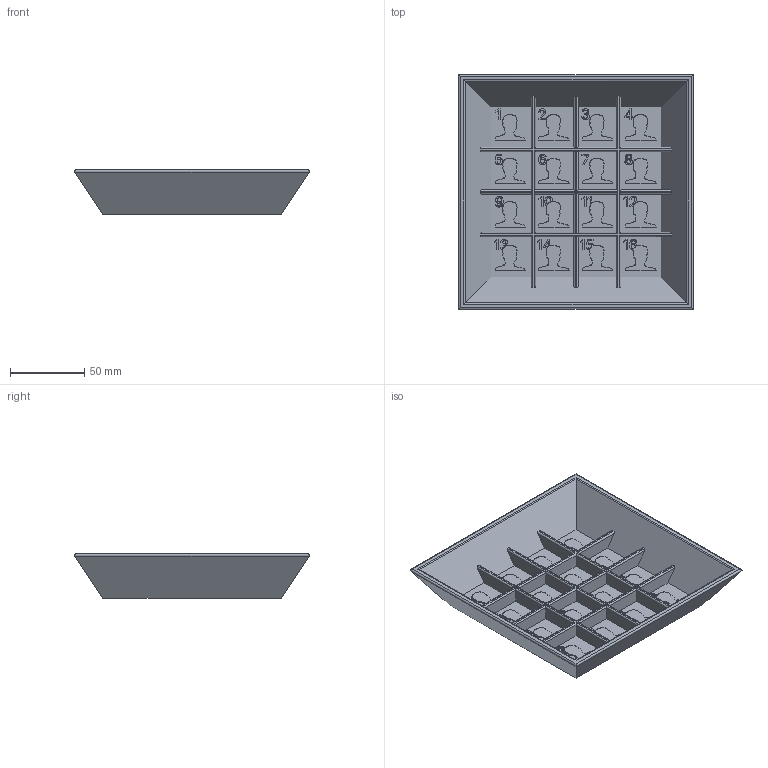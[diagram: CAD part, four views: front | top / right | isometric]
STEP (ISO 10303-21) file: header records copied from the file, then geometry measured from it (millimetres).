
FILE_DESCRIPTION(/* description */ ('','CAx-IF Rec.Pracs.---Representation and Presentation of Product Manufacturing Information (PMI)---4.0---2014-10-13'),/* implementation_level */ '2;1');
FILE_NAME(/* name */ 'yaju_tray_totu.step',/* time_stamp */ '2025-03-03T01:06:30+09:00',/* author */ (''),/* organization */ (''),/* preprocessor_version */ 'ST-DEVELOPER v20',/* originating_system */ 'Autodesk Translation Framework v13.20.0.188',/* authorisation */ '');
FILE_SCHEMA (('AP242_MANAGED_MODEL_BASED_3D_ENGINEERING_MIM_LF { 1 0 10303 442 1 1 4 }'));
Products named in the file (1): (未保存)
Bounding box: 158.26 x 158.26 x 30 mm (x, y, z)
Volume: 173111.5 mm3; surface area: 81638.6 mm2
Topology: 1 solids, 1 shells, 2023 faces, 5707 edges, 3790 vertices
Faces by surface type: bspline 1122, plane 845, cylinder 56
Entity records: 94472 total; most frequent: CARTESIAN_POINT 50671, ORIENTED_EDGE 11414, EDGE_CURVE 5707, DIRECTION 5265, VERTEX_POINT 3790, LINE 3325, VECTOR 3325, EDGE_LOOP 2127
